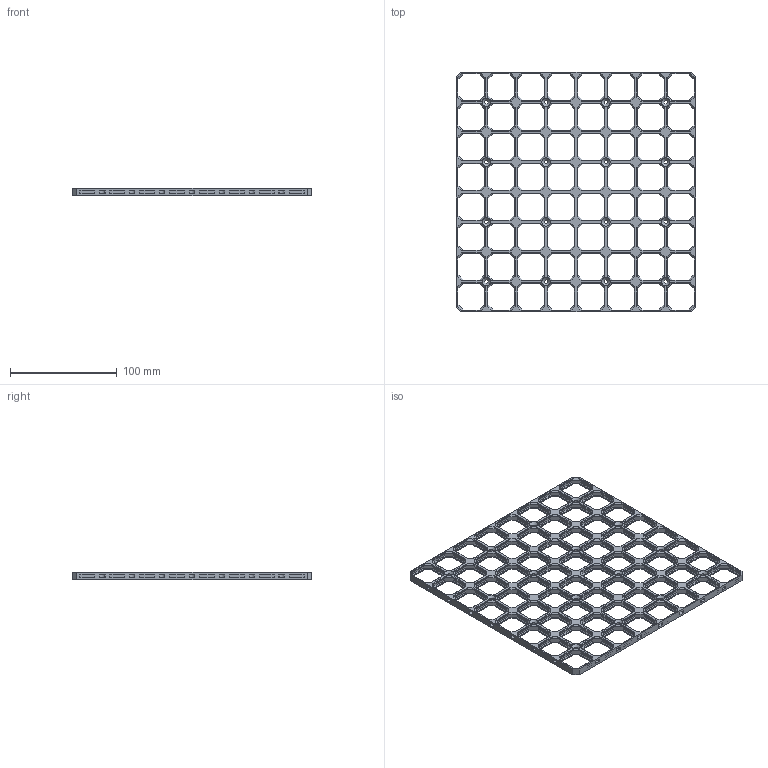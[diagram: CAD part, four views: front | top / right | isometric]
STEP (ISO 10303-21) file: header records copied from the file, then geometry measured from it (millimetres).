
FILE_DESCRIPTION(('FreeCAD Model'),'2;1');
FILE_NAME('Open CASCADE Shape Model','2025-07-10T20:07:58',(''),(''), 'Open CASCADE STEP processor 7.8','FreeCAD','Unknown');
FILE_SCHEMA(('AUTOMOTIVE_DESIGN { 1 0 10303 214 1 1 1 1 }'));
Products named in the file (1): Chamfer
Bounding box: 224 x 224 x 6.8 mm (x, y, z)
Volume: 74765.1 mm3; surface area: 71550.5 mm2
Topology: 1 solids, 1 shells, 2910 faces, 7656 edges, 4776 vertices
Faces by surface type: plane 2682, cylinder 212, cone 16
Full cylindrical faces by diameter (mm): 3.6 x16
Entity records: 87326 total; most frequent: CARTESIAN_POINT 15343, ORIENTED_EDGE 15312, DIRECTION 13974, EDGE_CURVE 7656, LINE 7160, VECTOR 7160, VERTEX_POINT 4776, AXIS2_PLACEMENT_3D 3407
